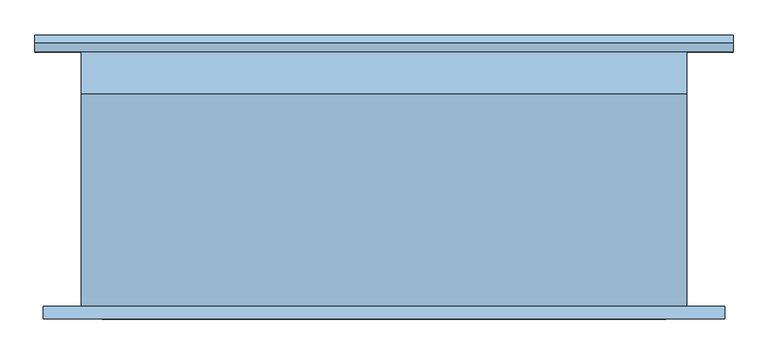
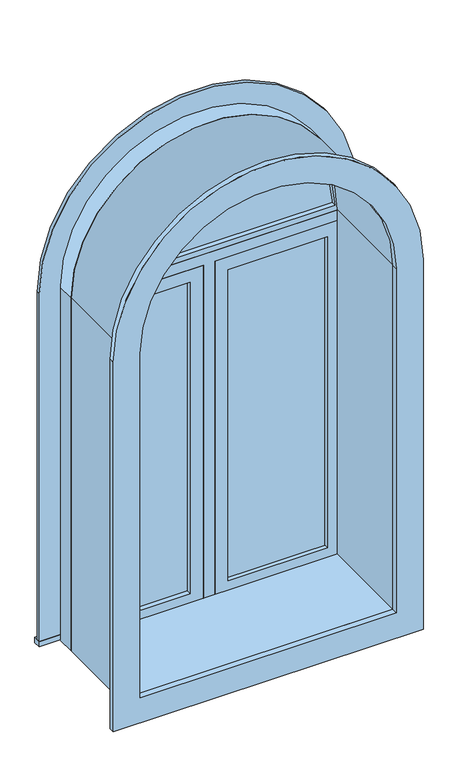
"""IFC4 building model written with IfcOpenShell, lengths in millimetres: window geometry, Объединение армирования с подрезкой : 0915 x 1220 мм."""

from ifc_helpers import new_model, si_unit, point, frame, frame_2d, origin, place, context, project, spatial, polyline, circle_curve, trimmed, segment, composite_curve, outline, extrude, source, transform, mapped, element, save


def window_f95da8d7(model_context):
    return source(origin(), model_context, "Body", "SweptSolid", [
        extrude(outline(composite_curve([segment(polyline([(2154.05, -506.7478419), (857.75, -506.7478419), (857.75, 522.7521581), (2154.05, 522.7521581)]), True, "CONTINUOUS"), segment(trimmed(circle_curve(frame_2d((2154.05, 8.0021581)), 514.75), [point((2154.05, 522.7521581))], [point((2154.05, -506.7478419))], False, "CARTESIAN"), True, "CONTINUOUS")], self_intersect=False), holes=[composite_curve([segment(trimmed(circle_curve(frame_2d((2154.05, 8.0021581)), 425.75), [point((2154.05, -417.7478419))], [point((2154.05, 433.7521581))], True, "CARTESIAN"), True, "CONTINUOUS"), segment(polyline([(2154.05, 433.7521581), (946.75, 433.7521581), (946.75, -417.7478419), (2154.05, -417.7478419)]), True, "CONTINUOUS")], self_intersect=False)]), frame((0.0, -211.5, 0.0), z_axis=(0.0, 1.0, 0.0), x_axis=(0.0, 0.0, 1.0)), (0.0, 0.0, 1.0), 19.0),
        extrude(outline(composite_curve([segment(trimmed(circle_curve(frame_2d((2154.05, 8.0021581)), 419.515161), [point((2173.0999995, 427.0845699))], [point((2173.0999995, -411.0802537))], False, "CARTESIAN"), True, "CONTINUOUS"), segment(polyline([(2173.0999995, -411.0802537), (2173.0999995, 427.0845699)]), True, "CONTINUOUS")], self_intersect=False)), frame((0.0, 144.925, 0.0), z_axis=(0.0, 1.0, 0.0), x_axis=(0.0, 0.0, 1.0)), (0.0, 0.0, 1.0), 12.7),
        extrude(outline(composite_curve([segment(trimmed(circle_curve(frame_2d((2154.05, 8.0021581)), 438.45), [point((2154.05, 446.4521581))], [point((2154.05, -430.4478419))], False, "CARTESIAN"), True, "CONTINUOUS"), segment(polyline([(2154.05, -430.4478419), (2154.05, 446.4521581)]), True, "CONTINUOUS")], self_intersect=False), holes=[composite_curve([segment(polyline([(2173.0999995, 427.0845698), (2173.0999995, -411.0802537)]), True, "CONTINUOUS"), segment(trimmed(circle_curve(frame_2d((2154.05, 8.0021581)), 419.515161), [point((2173.0999995, -411.0802537))], [point((2173.0999995, 427.0845698))], True, "CARTESIAN"), True, "CONTINUOUS")], self_intersect=False)]), frame((0.0, 129.05, 0.0), z_axis=(0.0, 1.0, 0.0), x_axis=(0.0, 0.0, 1.0)), (0.0, 0.0, 1.0), 44.45),
        extrude(outline(composite_curve([segment(polyline([(915.0, -449.4978419), (915.0, 465.5021581), (2154.05, 465.5021581)]), True, "CONTINUOUS"), segment(trimmed(circle_curve(frame_2d((2154.05, 8.0021581)), 457.5), [point((2154.05, 465.5021581))], [point((2154.05, -449.4978419))], False, "CARTESIAN"), True, "CONTINUOUS"), segment(polyline([(2154.05, -449.4978419), (915.0, -449.4978419)]), True, "CONTINUOUS")], self_intersect=False), holes=[composite_curve([segment(polyline([(934.05, -430.4478419), (2154.05, -430.4478419)]), True, "CONTINUOUS"), segment(trimmed(circle_curve(frame_2d((2154.05, 8.0021581)), 438.45), [point((2154.05, -430.4478419))], [point((2154.05, 446.4521581))], True, "CARTESIAN"), True, "CONTINUOUS"), segment(polyline([(2154.05, 446.4521581), (934.05, 446.4521581), (934.05, -430.4478419)]), True, "CONTINUOUS")], self_intersect=False)]), frame((0.0, 129.05, 0.0), z_axis=(0.0, 1.0, 0.0), x_axis=(0.0, 0.0, 1.0)), (0.0, 0.0, 1.0), 63.45),
        extrude(outline(polyline([(71.5021581, 157.625), (402.0021581, 157.625), (402.0021581, 144.925), (71.5021581, 144.925), (71.5021581, 157.625)])), frame((0.0, 0.0, 978.5), z_axis=(0.0, 0.0, 1.0), x_axis=(1.0, 0.0, 0.0)), (0.0, 0.0, 1.0), 1093.0),
        extrude(outline(polyline([(2115.95, 27.0521581), (934.05, 27.0521581), (934.05, 446.4521581), (2115.95, 446.4521581), (2115.95, 27.0521581)]), holes=[polyline([(2071.5, 71.5021581), (2071.5, 402.0021581), (978.5, 402.0021581), (978.5, 71.5021581), (2071.5, 71.5021581)])]), frame((0.0, 129.05, 0.0), z_axis=(0.0, 1.0, 0.0), x_axis=(0.0, 0.0, 1.0)), (0.0, 0.0, 1.0), 44.45),
        extrude(outline(polyline([(934.05, -11.0478419), (934.05, 27.0521581), (2115.95, 27.0521581), (2115.95, 446.4521581), (2154.05, 446.4521581), (2154.05, -430.4478419), (2115.95, -430.4478419), (2115.95, -11.0478419), (934.05, -11.0478419)])), frame((0.0, 129.05, 0.0), z_axis=(0.0, 1.0, 0.0), x_axis=(0.0, 0.0, 1.0)), (0.0, 0.0, 1.0), 63.5),
        extrude(outline(polyline([(-519.4478419, 218.2), (535.4521581, 218.2), (535.4521581, 192.5), (-519.4478419, 192.5), (-519.4478419, 218.2)])), frame((0.0, 0.0, 915.0), z_axis=(0.0, 0.0, 1.0), x_axis=(1.0, 0.0, 0.0)), (0.0, 0.0, 1.0), 19.05),
        extrude(outline(composite_curve([segment(polyline([(934.05, 446.4521581), (934.05, 535.4521581), (2154.05, 535.4521581)]), True, "CONTINUOUS"), segment(trimmed(circle_curve(frame_2d((2154.05, 8.0021581)), 527.45), [point((2154.05, 535.4521581))], [point((2154.05, -519.4478419))], False, "CARTESIAN"), True, "CONTINUOUS"), segment(polyline([(2154.05, -519.4478419), (934.05, -519.4478419), (934.05, -430.4478419), (2154.05, -430.4478419)]), True, "CONTINUOUS"), segment(trimmed(circle_curve(frame_2d((2154.05, 8.0021581)), 438.45), [point((2154.05, -430.4478419))], [point((2154.05, 446.4521581))], True, "CARTESIAN"), True, "CONTINUOUS"), segment(polyline([(2154.05, 446.4521581), (934.05, 446.4521581)]), True, "CONTINUOUS")], self_intersect=False)), frame((0.0, 192.5, 0.0), z_axis=(0.0, 1.0, 0.0), x_axis=(0.0, 0.0, 1.0)), (0.0, 0.0, 1.0), 13.0),
        extrude(outline(polyline([(-55.4978419, 144.925), (-385.9978419, 144.925), (-385.9978419, 157.625), (-55.4978419, 157.625), (-55.4978419, 144.925)])), frame((0.0, 0.0, 978.5), z_axis=(0.0, 0.0, 1.0), x_axis=(1.0, 0.0, 0.0)), (0.0, 0.0, 1.0), 1093.0),
        extrude(outline(polyline([(2115.95, -430.4478419), (934.05, -430.4478419), (934.05, -11.0478419), (2115.95, -11.0478419), (2115.95, -430.4478419)]), holes=[polyline([(2071.5, -385.9978419), (2071.5, -55.4978419), (978.5, -55.4978419), (978.5, -385.9978419), (2071.5, -385.9978419)])]), frame((0.0, 129.05, 0.0), z_axis=(0.0, 1.0, 0.0), x_axis=(0.0, 0.0, 1.0)), (0.0, 0.0, 1.0), 44.45),
        extrude(outline(composite_curve([segment(polyline([(915.0, 465.5021581), (2154.05, 465.5021581)]), True, "CONTINUOUS"), segment(trimmed(circle_curve(frame_2d((2154.05, 8.0021581)), 457.5), [point((2154.05, 465.5021581))], [point((2154.05, -449.4978419))], False, "CARTESIAN"), True, "CONTINUOUS"), segment(polyline([(2154.05, -449.4978419), (915.0, -449.4978419), (915.0, 465.5021581)]), True, "CONTINUOUS")], self_intersect=False), holes=[composite_curve([segment(polyline([(946.75, 433.7521581), (946.75, -417.7478419), (2154.05, -417.7478419)]), True, "CONTINUOUS"), segment(trimmed(circle_curve(frame_2d((2154.05, 8.0021581)), 425.75), [point((2154.05, -417.7478419))], [point((2154.05, 433.7521581))], True, "CARTESIAN"), True, "CONTINUOUS"), segment(polyline([(2154.05, 433.7521581), (946.75, 433.7521581)]), True, "CONTINUOUS")], self_intersect=False)]), frame((0.0, -192.5, 0.0), z_axis=(0.0, 1.0, 0.0), x_axis=(0.0, 0.0, 1.0)), (0.0, 0.0, 1.0), 321.55),
    ])


if __name__ == "__main__":
    model = new_model("IFC4")
    model_context = context("Model", 3, world=origin())
    ifc_project = project(units=[si_unit("LENGTHUNIT", "METRE", prefix="MILLI")], contexts=[model_context])
    site = spatial("IfcSite", under=ifc_project)
    building = spatial("IfcBuilding", under=site)
    placement = place(None, origin())
    window_shape = window_f95da8d7(model_context)
    element("IfcWindow", 1, ObjectType="Объединение армирования с подрезкой : 0915 x 1220 мм", at=placement, inside=building, context=model_context, shape_type="MappedRepresentation", body=[
        mapped(window_shape, transform((0.0, 0.0, 0.0), x_axis=(1.0, 0.0, 0.0), y_axis=(0.0, 1.0, 0.0), z_axis=(0.0, 0.0, 1.0))),
    ])
    save(model, "model.ifc")
